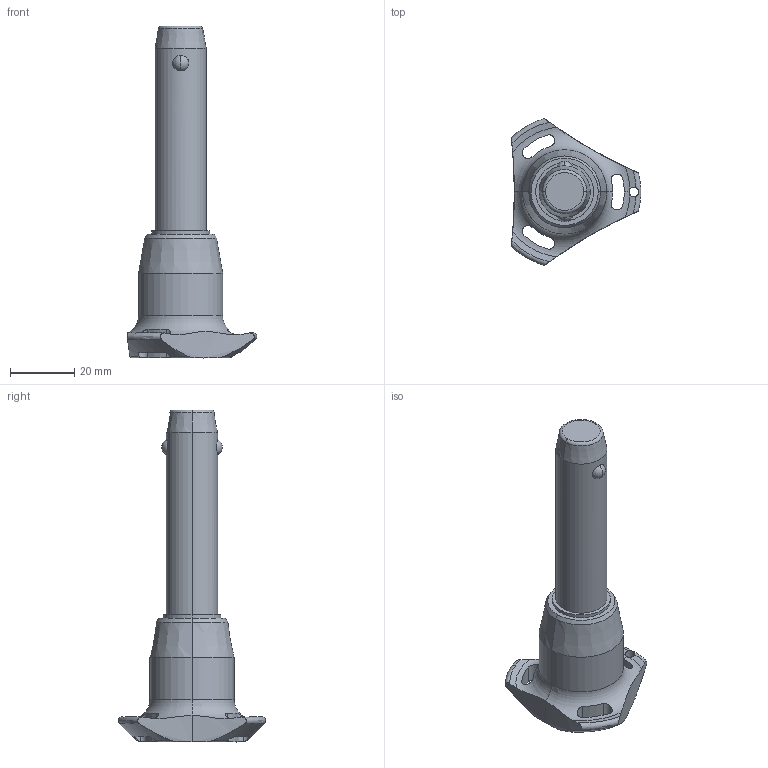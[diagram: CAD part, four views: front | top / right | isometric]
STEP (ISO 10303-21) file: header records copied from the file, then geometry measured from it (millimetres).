
FILE_DESCRIPTION (( 'STEP AP203' ), '1' );
FILE_NAME ('QR1724.M16-050-S.step', '2025-11-12T13:02:31', ( '' ), ( '' ), 'SwSTEP 2.0', 'SolidWorks 2019', '' );
FILE_SCHEMA (( 'CONFIG_CONTROL_DESIGN' ));
Length unit declared in the file: millimetre
Products named in the file (1): QR1724.M16-050-S
Bounding box: 40.5 x 45.88 x 103.7 mm (x, y, z)
Volume: 35149.8 mm3; surface area: 9171.8 mm2
Topology: 1 solids, 1 shells, 65 faces, 178 edges, 113 vertices
Faces by surface type: cylinder 30, cone 14, torus 11, sphere 6, plane 4
Entity records: 2870 total; most frequent: CARTESIAN_POINT 1181, ORIENTED_EDGE 356, DIRECTION 329, EDGE_CURVE 178, AXIS2_PLACEMENT_3D 147, VERTEX_POINT 113, CIRCLE 81, EDGE_LOOP 71
